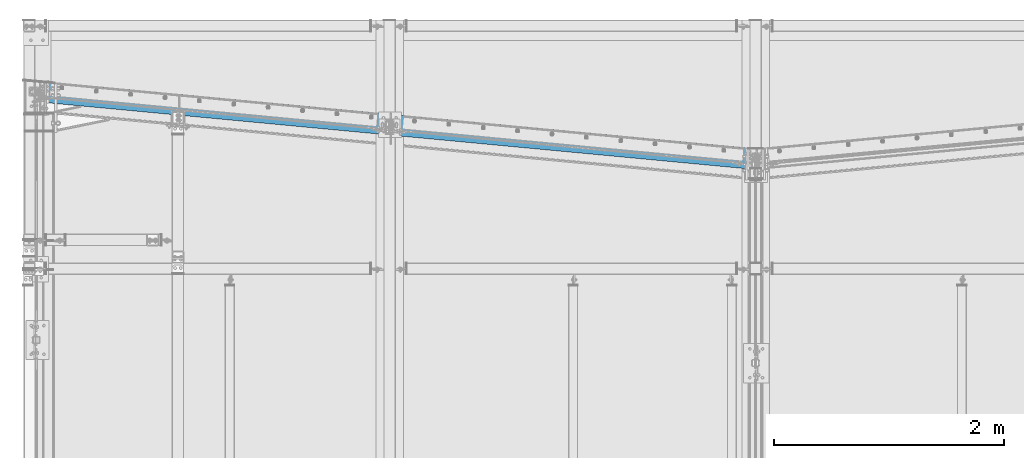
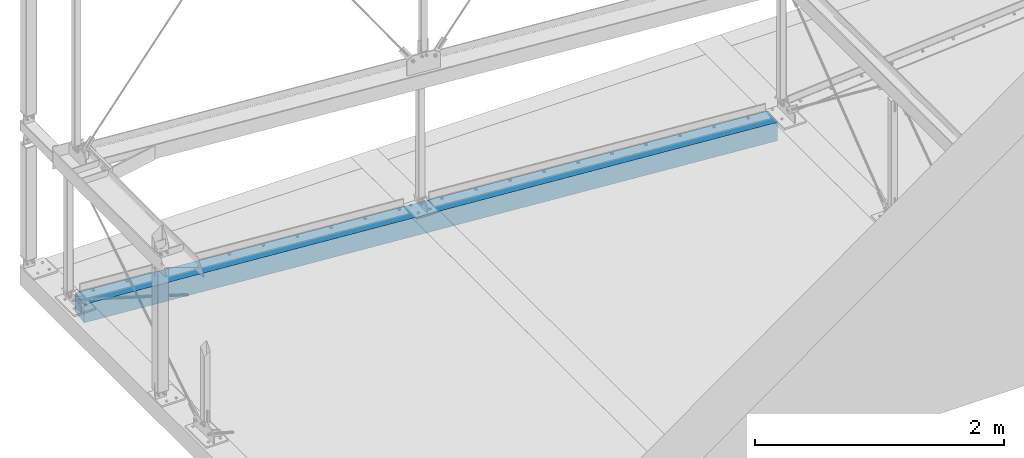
# One storey, part 32 of 271: 1 beam, 1 element without a shape of its own.
"""IFC2X3 building model written with IfcOpenShell, lengths in millimetres."""

from ifc_helpers import new_model, si_unit, frame, origin_with_axes, origin_2d_with_axis, place, context, subcontext, project, spatial, rectangle, extrude, material, type_object, element, aggregate, save


model = new_model("IFC2X3")

# Units and contexts
model_context = context("Model", 3, precision=1e-05, world=origin_with_axes())
body_context = subcontext(model_context, "Body", "Model", "MODEL_VIEW")
ifc_project = project(units=[si_unit("LENGTHUNIT", "METRE", prefix="MILLI"), si_unit("AREAUNIT", "SQUARE_METRE"), si_unit("VOLUMEUNIT", "CUBIC_METRE"), si_unit("MASSUNIT", "GRAM", prefix="KILO"), si_unit("TIMEUNIT", "SECOND"), si_unit("PLANEANGLEUNIT", "RADIAN"), si_unit("SOLIDANGLEUNIT", "STERADIAN"), si_unit("THERMODYNAMICTEMPERATUREUNIT", "DEGREE_CELSIUS"), si_unit("LUMINOUSINTENSITYUNIT", "LUMEN")], contexts=[model_context])

# Site, building, storey
site_placement = place(None, origin_with_axes())
site = spatial("IfcSite", under=ifc_project, at=site_placement, Name="Undefined", CompositionType="ELEMENT")
building_placement = place(site_placement, origin_with_axes())
building = spatial("IfcBuilding", under=site, at=building_placement, Name="Undefined", CompositionType="ELEMENT")
storey_placement = place(building_placement, origin_with_axes())
storey = spatial("IfcBuildingStorey", under=building, at=storey_placement, Name="Undefined", CompositionType="ELEMENT", Elevation=0.0)

# Assembly, beam
assembly_placement = place(storey_placement, origin_with_axes())
assembly = element("IfcElementAssembly", 1, at=assembly_placement, inside=storey, Name="BELKA", AssemblyPlace="NOTDEFINED", PredefinedType="REINFORCEMENT_UNIT")
ifc_material = material(Name="CONCRETE/C25/30")
beam_type = type_object("IfcBeamType", Name="180*180", PredefinedType="NOTDEFINED")
beam_placement = place(assembly_placement, frame((6265.92265354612, 3757.90279247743, -106.150000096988), z_axis=(0.0, 0.0, -1.0), x_axis=(-0.995579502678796, 0.0939225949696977, 0.0)))
beam = element("IfcBeam", 2, at=beam_placement, type_object=beam_type, material=ifc_material, Name="BELKA", ObjectType="180*180", context=body_context, shape_type="SweptSolid", body=[
    extrude(rectangle(XDim=180.0, YDim=180.0, at=origin_2d_with_axis()), frame((6116.03592040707, 0.0, 1.4210854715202e-14), z_axis=(-1.0, 0.0, 1.38777878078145e-17), x_axis=(0.0, -1.0, 0.0)), (0.0, 0.0, 1.0), 6116.04),
])
aggregate(assembly, [beam])

save(model, "model.ifc")
